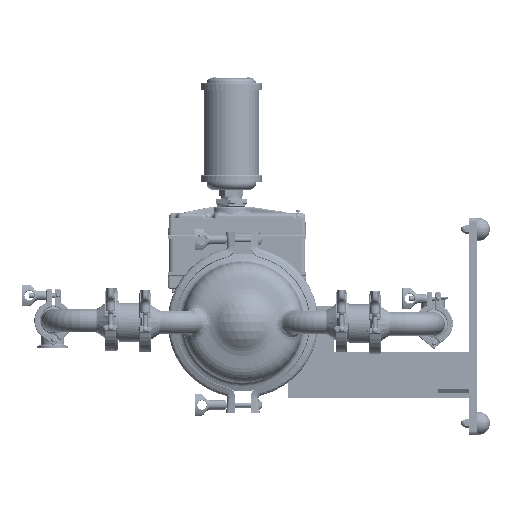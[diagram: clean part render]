
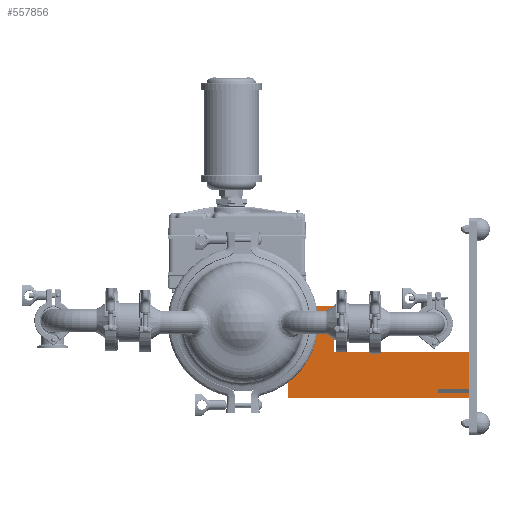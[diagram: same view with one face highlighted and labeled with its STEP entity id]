
A CAD part, left-side view. The second image highlights one B-rep face of the part: STEP entity #557856.
In plain terms, the highlighted planar face has unit normal (-1, 0, 0).
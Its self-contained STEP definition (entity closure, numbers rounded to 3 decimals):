
#4088 = DIRECTION ( 'NONE',  ( 0., -1., 0. ) ) ;
#7476 = VECTOR ( 'NONE', #557015, 39.37 ) ;
#17588 = CARTESIAN_POINT ( 'NONE',  ( -1., -12.56, -4.288 ) ) ;
#18237 = LINE ( 'NONE', #137169, #27502 ) ;
#27502 = VECTOR ( 'NONE', #399843, 39.37 ) ;
#36164 = EDGE_CURVE ( 'NONE', #388686, #345830, #67976, .T. ) ;
#42674 = LINE ( 'NONE', #520198, #7476 ) ;
#52500 = VERTEX_POINT ( 'NONE', #190946 ) ;
#53517 = ORIENTED_EDGE ( 'NONE', *, *, #138403, .F. ) ;
#53646 = ORIENTED_EDGE ( 'NONE', *, *, #223092, .F. ) ;
#54352 = VECTOR ( 'NONE', #384806, 39.37 ) ;
#55838 = LINE ( 'NONE', #103735, #230492 ) ;
#57419 = DIRECTION ( 'NONE',  ( 0., 0., 1. ) ) ;
#59283 = VERTEX_POINT ( 'NONE', #161302 ) ;
#67161 = EDGE_CURVE ( 'NONE', #59283, #222092, #402170, .T. ) ;
#67976 = LINE ( 'NONE', #537121, #313140 ) ;
#69555 = VERTEX_POINT ( 'NONE', #498814 ) ;
#70895 = ORIENTED_EDGE ( 'NONE', *, *, #351228, .T. ) ;
#79420 = DIRECTION ( 'NONE',  ( -1., 0., 0. ) ) ;
#82444 = CARTESIAN_POINT ( 'NONE',  ( -1., -4.16, -1.928 ) ) ;
#88122 = DIRECTION ( 'NONE',  ( 0., 0., -1. ) ) ;
#89405 = CARTESIAN_POINT ( 'NONE',  ( -1., -2.88, -1.928 ) ) ;
#91099 = VERTEX_POINT ( 'NONE', #512746 ) ;
#91926 = PLANE ( 'NONE',  #498782 ) ;
#103735 = CARTESIAN_POINT ( 'NONE',  ( -1., -2.88, -4.898 ) ) ;
#107079 = VERTEX_POINT ( 'NONE', #377587 ) ;
#110545 = EDGE_CURVE ( 'NONE', #107079, #388686, #473260, .T. ) ;
#113119 = ORIENTED_EDGE ( 'NONE', *, *, #36164, .F. ) ;
#113267 = VERTEX_POINT ( 'NONE', #296626 ) ;
#116200 = CARTESIAN_POINT ( 'NONE',  ( -1., -5.88, -1.898 ) ) ;
#117349 = ORIENTED_EDGE ( 'NONE', *, *, #331544, .T. ) ;
#123185 = VECTOR ( 'NONE', #181259, 39.37 ) ;
#130450 = CARTESIAN_POINT ( 'NONE',  ( -1., -2.88, 1.027 ) ) ;
#134112 = CARTESIAN_POINT ( 'NONE',  ( -1., -5.88, -1.898 ) ) ;
#137169 = CARTESIAN_POINT ( 'NONE',  ( -1., -4.21, -1.928 ) ) ;
#138403 = EDGE_CURVE ( 'NONE', #496769, #139541, #156480, .T. ) ;
#139541 = VERTEX_POINT ( 'NONE', #217836 ) ;
#147780 = EDGE_CURVE ( 'NONE', #493884, #113267, #55838, .T. ) ;
#150919 = CARTESIAN_POINT ( 'NONE',  ( -1., -12.56, -4.288 ) ) ;
#156480 = LINE ( 'NONE', #150919, #254783 ) ;
#161302 = CARTESIAN_POINT ( 'NONE',  ( -1., -2.88, -1.928 ) ) ;
#167362 = LINE ( 'NONE', #384912, #203670 ) ;
#167947 = CARTESIAN_POINT ( 'NONE',  ( -1., -14.56, -4.898 ) ) ;
#170158 = CARTESIAN_POINT ( 'NONE',  ( -1., -2.88, 1.027 ) ) ;
#180323 = DIRECTION ( 'NONE',  ( 0., 0., 1. ) ) ;
#181259 = DIRECTION ( 'NONE',  ( 0., 1., 0. ) ) ;
#187179 = ORIENTED_EDGE ( 'NONE', *, *, #374238, .F. ) ;
#187573 = ORIENTED_EDGE ( 'NONE', *, *, #313960, .T. ) ;
#188305 = VECTOR ( 'NONE', #550500, 39.37 ) ;
#190946 = CARTESIAN_POINT ( 'NONE',  ( -1., -4.21, -2.458 ) ) ;
#192646 = DIRECTION ( 'NONE',  ( 0., 1., 0. ) ) ;
#201751 = VECTOR ( 'NONE', #4088, 39.37 ) ;
#203670 = VECTOR ( 'NONE', #215337, 39.37 ) ;
#207782 = ORIENTED_EDGE ( 'NONE', *, *, #294744, .F. ) ;
#208322 = EDGE_CURVE ( 'NONE', #107079, #91099, #167362, .T. ) ;
#210532 = CARTESIAN_POINT ( 'NONE',  ( -1., -4.21, -1.928 ) ) ;
#215337 = DIRECTION ( 'NONE',  ( 0., 0., 1. ) ) ;
#217836 = CARTESIAN_POINT ( 'NONE',  ( -1., -12.56, -4.538 ) ) ;
#222092 = VERTEX_POINT ( 'NONE', #130450 ) ;
#222721 = VERTEX_POINT ( 'NONE', #227119 ) ;
#223092 = EDGE_CURVE ( 'NONE', #222092, #91099, #523290, .T. ) ;
#226402 = CARTESIAN_POINT ( 'NONE',  ( -1., -4.21, -2.458 ) ) ;
#227119 = CARTESIAN_POINT ( 'NONE',  ( -1., -14.56, -4.538 ) ) ;
#228049 = ORIENTED_EDGE ( 'NONE', *, *, #67161, .F. ) ;
#230492 = VECTOR ( 'NONE', #180323, 39.37 ) ;
#233703 = VERTEX_POINT ( 'NONE', #297633 ) ;
#237743 = VECTOR ( 'NONE', #258271, 39.37 ) ;
#245342 = LINE ( 'NONE', #380912, #188305 ) ;
#254783 = VECTOR ( 'NONE', #317680, 39.37 ) ;
#255219 = ORIENTED_EDGE ( 'NONE', *, *, #147780, .F. ) ;
#258271 = DIRECTION ( 'NONE',  ( 0., 1., 0. ) ) ;
#271511 = LINE ( 'NONE', #226402, #123185 ) ;
#283563 = ORIENTED_EDGE ( 'NONE', *, *, #356169, .F. ) ;
#294744 = EDGE_CURVE ( 'NONE', #233703, #493884, #555100, .T. ) ;
#296626 = CARTESIAN_POINT ( 'NONE',  ( -1., -2.88, -2.458 ) ) ;
#297633 = CARTESIAN_POINT ( 'NONE',  ( -1., -14.56, -4.898 ) ) ;
#313140 = VECTOR ( 'NONE', #494729, 39.37 ) ;
#313960 = EDGE_CURVE ( 'NONE', #222721, #139541, #245342, .T. ) ;
#317680 = DIRECTION ( 'NONE',  ( 0., 0., -1. ) ) ;
#323447 = EDGE_CURVE ( 'NONE', #52500, #113267, #271511, .T. ) ;
#328143 = LINE ( 'NONE', #492193, #480680 ) ;
#329705 = ORIENTED_EDGE ( 'NONE', *, *, #208322, .T. ) ;
#331544 = EDGE_CURVE ( 'NONE', #468188, #52500, #18237, .T. ) ;
#345294 = DIRECTION ( 'NONE',  ( 0., -1., 0. ) ) ;
#345830 = VERTEX_POINT ( 'NONE', #481463 ) ;
#351228 = EDGE_CURVE ( 'NONE', #59283, #69555, #42674, .T. ) ;
#353216 = VECTOR ( 'NONE', #345294, 39.37 ) ;
#356169 = EDGE_CURVE ( 'NONE', #222721, #233703, #526058, .T. ) ;
#374238 = EDGE_CURVE ( 'NONE', #345830, #496769, #328143, .T. ) ;
#377587 = CARTESIAN_POINT ( 'NONE',  ( -1., -5.88, -1.898 ) ) ;
#380912 = CARTESIAN_POINT ( 'NONE',  ( -1., -14.56, -4.538 ) ) ;
#381485 = ORIENTED_EDGE ( 'NONE', *, *, #110545, .F. ) ;
#384806 = DIRECTION ( 'NONE',  ( 0., -1., 0. ) ) ;
#384912 = CARTESIAN_POINT ( 'NONE',  ( -1., -5.88, -1.898 ) ) ;
#388686 = VERTEX_POINT ( 'NONE', #518442 ) ;
#389495 = ORIENTED_EDGE ( 'NONE', *, *, #403773, .T. ) ;
#399843 = DIRECTION ( 'NONE',  ( 0., 0., -1. ) ) ;
#402170 = LINE ( 'NONE', #89405, #504296 ) ;
#403773 = EDGE_CURVE ( 'NONE', #69555, #468188, #421621, .T. ) ;
#421621 = LINE ( 'NONE', #82444, #54352 ) ;
#460791 = VECTOR ( 'NONE', #88122, 39.37 ) ;
#468188 = VERTEX_POINT ( 'NONE', #210532 ) ;
#472473 = CARTESIAN_POINT ( 'NONE',  ( -1., -14.56, -4.538 ) ) ;
#473260 = LINE ( 'NONE', #134112, #201751 ) ;
#479081 = FACE_OUTER_BOUND ( 'NONE', #517678, .T. ) ;
#480349 = CARTESIAN_POINT ( 'NONE',  ( -1., -2.88, -4.898 ) ) ;
#480680 = VECTOR ( 'NONE', #192646, 39.37 ) ;
#481463 = CARTESIAN_POINT ( 'NONE',  ( -1., -14.56, -4.288 ) ) ;
#492193 = CARTESIAN_POINT ( 'NONE',  ( -1., -14.56, -4.288 ) ) ;
#493884 = VERTEX_POINT ( 'NONE', #480349 ) ;
#494729 = DIRECTION ( 'NONE',  ( 0., 0., -1. ) ) ;
#496769 = VERTEX_POINT ( 'NONE', #17588 ) ;
#498782 = AXIS2_PLACEMENT_3D ( 'NONE', #116200, #79420, #535341 ) ;
#498814 = CARTESIAN_POINT ( 'NONE',  ( -1., -4.16, -1.928 ) ) ;
#504296 = VECTOR ( 'NONE', #57419, 39.37 ) ;
#512746 = CARTESIAN_POINT ( 'NONE',  ( -1., -5.88, 1.027 ) ) ;
#517678 = EDGE_LOOP ( 'NONE', ( #283563, #187573, #53517, #187179, #113119, #381485, #329705, #53646, #228049, #70895, #389495, #117349, #523233, #255219, #207782 ) ) ;
#518442 = CARTESIAN_POINT ( 'NONE',  ( -1., -14.56, -1.898 ) ) ;
#520198 = CARTESIAN_POINT ( 'NONE',  ( -1., -2.88, -1.928 ) ) ;
#523233 = ORIENTED_EDGE ( 'NONE', *, *, #323447, .T. ) ;
#523290 = LINE ( 'NONE', #170158, #353216 ) ;
#526058 = LINE ( 'NONE', #472473, #460791 ) ;
#535341 = DIRECTION ( 'NONE',  ( 0., 0., 1. ) ) ;
#537121 = CARTESIAN_POINT ( 'NONE',  ( -1., -14.56, -1.898 ) ) ;
#550500 = DIRECTION ( 'NONE',  ( 0., 1., 0. ) ) ;
#555100 = LINE ( 'NONE', #167947, #237743 ) ;
#557015 = DIRECTION ( 'NONE',  ( 0., -1., 0. ) ) ;
#557856 = ADVANCED_FACE ( 'NONE', ( #479081 ), #91926, .T. ) ;
